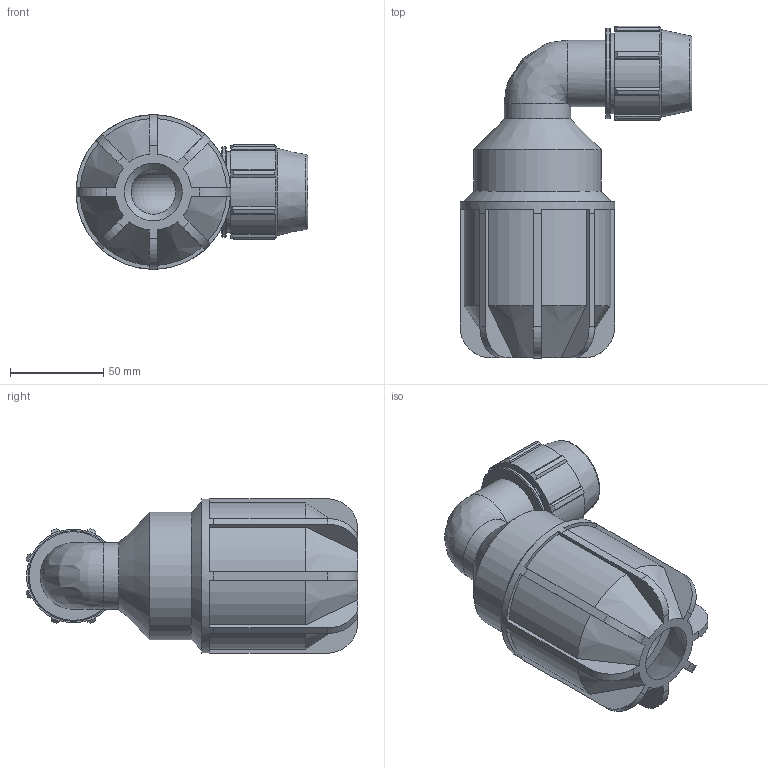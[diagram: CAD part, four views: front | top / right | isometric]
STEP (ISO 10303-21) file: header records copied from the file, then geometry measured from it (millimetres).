
FILE_DESCRIPTION(/* description */ ('PLASSON PLASS4 90° ELBOW 3/4'''' - 1.22'),/* implementation_level */ '2;1');
FILE_NAME(/* name */ 'C:\Dropbox\KIMPROJECTS-Inventor 2019\99-16-3568-Processing Inch\ASTM Compression 2021\070570M0\070570M07035.ipt.stp',/* time_stamp */ '2021-08-26T12:31:43+03:00',/* author */ ('KIM'),/* organization */ (''),/* preprocessor_version */ 'ST-DEVELOPER v17.2',/* originating_system */ 'Autodesk Inventor 2019',/* authorisation */ '');
FILE_SCHEMA (('AUTOMOTIVE_DESIGN { 1 0 10303 214 3 1 1 }'));
Length unit declared in the file: inch
Products named in the file (1): 070570M07035
Bounding box: 124.59 x 178.36 x 83.06 mm (x, y, z)
Volume: 306965.3 mm3; surface area: 87544.2 mm2
Topology: 1 solids, 1 shells, 160 faces, 466 edges, 312 vertices
Faces by surface type: plane 88, cylinder 42, cone 24, torus 5, bspline 1
Full cylindrical faces by diameter (mm): 23.94 x2, 26.6 x1, 35.686 x2, 43.282 x1, 48.692 x1, 56.797 x1, 68.544 x1, 83.058 x1
Entity records: 5543 total; most frequent: CARTESIAN_POINT 1059, ORIENTED_EDGE 928, DIRECTION 910, EDGE_CURVE 464, AXIS2_PLACEMENT_3D 334, VERTEX_POINT 312, LINE 242, VECTOR 242
